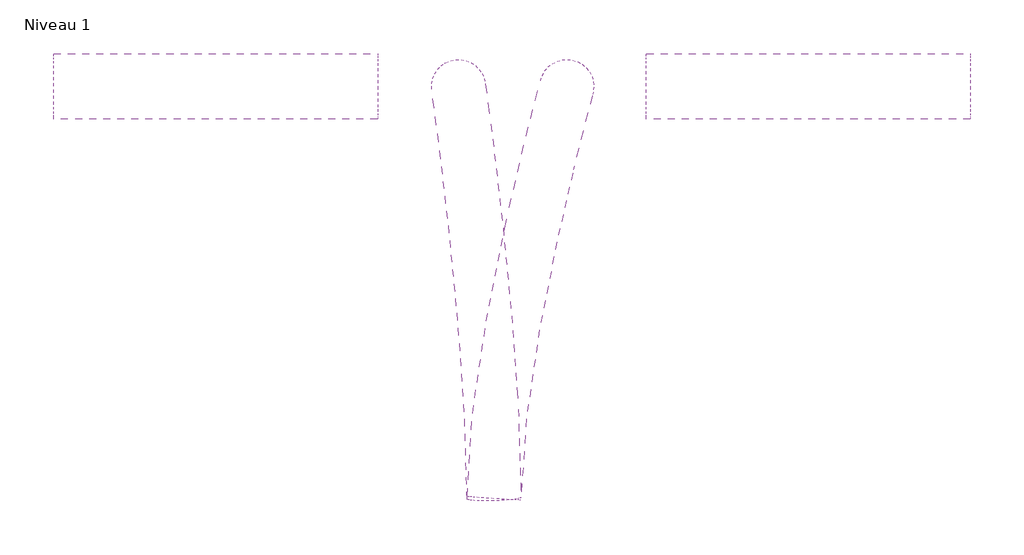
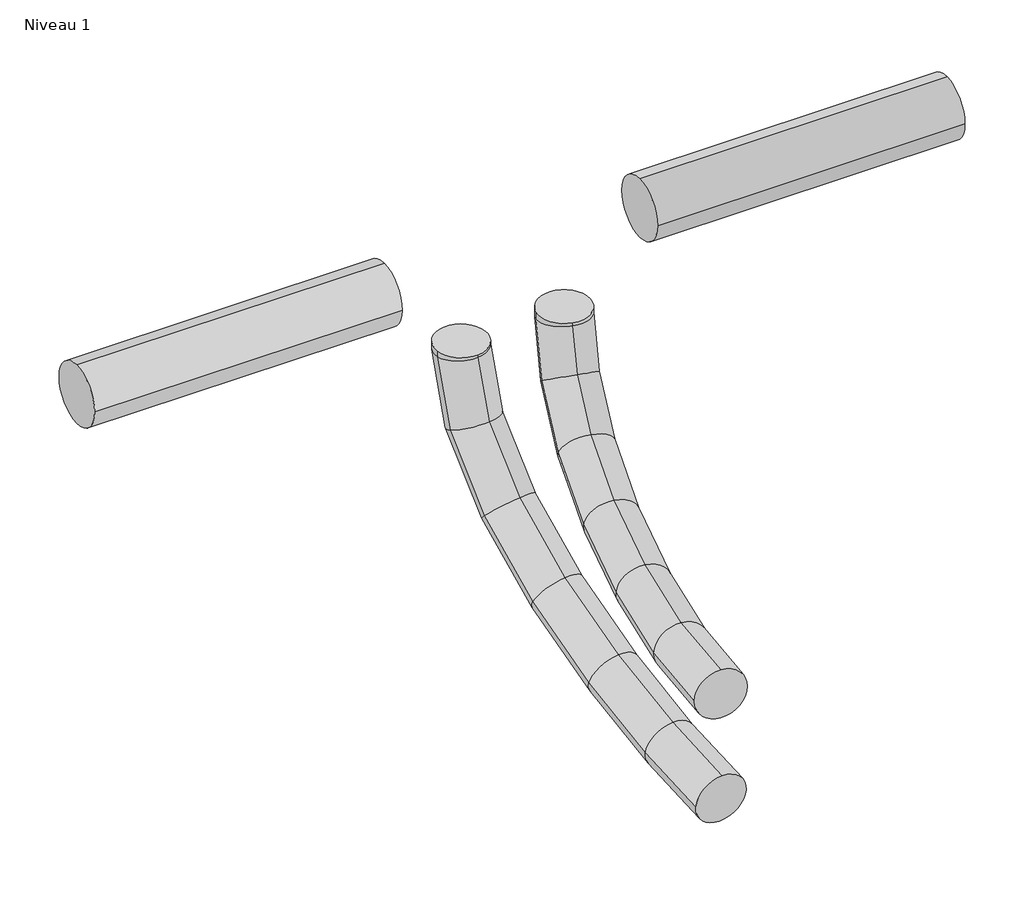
# One storey, incomplete: 4 pipe segments.
"""IFC4 building model written with IfcOpenShell, lengths in millimetres."""

from ifc_helpers import new_model, si_unit, point, frame, frame_2d, origin, place, context, project, spatial, circle_curve, ellipse_curve, trimmed, segment, composite_curve, outline, extrude, element, save
from ifc_brep_helpers import plane_surface, cylinder_surface, advanced_brep

model = new_model("IFC4")

# Units and contexts
model_context = context("Model", 3, world=origin())
ifc_project = project(units=[si_unit("LENGTHUNIT", "METRE", prefix="MILLI")], contexts=[model_context])

# Site, building, storey
site = spatial("IfcSite", under=ifc_project)
building = spatial("IfcBuilding", under=site)
storey = spatial("IfcBuildingStorey", under=building, Name="Niveau 1", Elevation=0.0)

# Pipe segments
placement = place(None, origin())
element("IfcPipeSegment", 1, ObjectType="Souple - Circulaire", at=placement, inside=storey, context=model_context, shape_type="AdvancedBrep", body=[
    advanced_brep(
    [(3432.3138955, -8730.6327238, 1379.680617), (3457.283736, -8731.9119597, 1354.6832047), (3482.2064381, -8733.9090322, 1379.680617), (3457.2365976, -8732.6297963, 1404.6780293), (3437.386469, -8653.386152, 1380.7945228), (3462.3315895, -8655.0418313, 1355.7916821), (3487.1448393, -8658.7056729, 1380.7650594), (3462.1997189, -8657.0499936, 1405.7679001), (3500.4514115, -8344.6009171, 1523.8970087), (3519.3136141, -8374.5043837, 1523.8970087), (3549.2170807, -8355.6421811, 1523.8970087), (3530.3548781, -8325.7387145, 1523.8970087), (3450.1356936, -8567.6164727, 1386.5233384), (3475.1149172, -8569.0427253, 1361.5358218), (3499.4230515, -8576.1047033, 1386.2822273), (3474.4438279, -8574.6784506, 1411.2697439), (3466.58074, -8484.3032958, 1400.3068839), (3492.0226016, -8483.3857518, 1375.707131), (3515.5136729, -8494.5870983, 1399.7687088), (3490.0718113, -8495.5046423, 1424.3684616), (3482.952736, -8412.9340647, 1425.6030629), (3509.6314267, -8406.6249027, 1402.9143203), (3531.6773447, -8424.1259993, 1424.7430086), (3504.998654, -8430.4351612, 1447.4317512), (3495.4728143, -8363.2241661, 1465.7471249), (3524.2853002, -8348.4429537, 1449.9001286), (3544.1847031, -8374.4666043, 1464.8462854), (3515.3722173, -8389.2478167, 1480.6932817), (3500.4514115, -8344.6009171, 1516.2245575), (3530.3548781, -8325.7387145, 1511.4388916), (3549.2170807, -8355.6421811, 1515.8689915), (3519.3136141, -8374.5043837, 1520.6546574)],
    [
        (0, 1, circle_curve(frame((3457.2601668, -8732.270878, 1379.680617), z_axis=(-0.06551938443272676, -0.9977475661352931, -0.014387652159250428), x_axis=(-0.9978508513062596, 0.06552616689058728, 0.0)), 25.0)),
        (1, 2, circle_curve(frame((3457.2601668, -8732.270878, 1379.680617), z_axis=(-0.06551938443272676, -0.9977475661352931, -0.014387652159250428), x_axis=(-0.9978508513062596, 0.06552616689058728, 0.0)), 25.0)),
        (2, 3, circle_curve(frame((3457.2601668, -8732.270878, 1379.680617), z_axis=(-0.06551938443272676, -0.9977475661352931, -0.014387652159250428), x_axis=(-0.9978508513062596, 0.06552616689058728, 0.0)), 25.0)),
        (3, 0, circle_curve(frame((3457.2601668, -8732.270878, 1379.680617), z_axis=(-0.06551938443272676, -0.9977475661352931, -0.014387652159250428), x_axis=(-0.9978508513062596, 0.06552616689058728, 0.0)), 25.0)),
        (0, 4),
        (4, 5, ellipse_curve(frame((3462.2656542, -8656.0459124, 1380.7797911), z_axis=(-0.10623891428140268, -0.9935275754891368, -0.04020260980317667), x_axis=(0.8390340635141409, -0.11126933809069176, 0.5325795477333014)), 25.0293131, 25.0)),
        (5, 1),
        (5, 6, ellipse_curve(frame((3462.2656542, -8656.0459124, 1380.7797911), z_axis=(-0.10623891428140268, -0.9935275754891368, -0.04020260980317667), x_axis=(0.8390340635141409, -0.11126933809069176, 0.5325795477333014)), 25.0293131, 25.0)),
        (6, 2),
        (6, 7, ellipse_curve(frame((3462.2656542, -8656.0459124, 1380.7797911), z_axis=(-0.10623891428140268, -0.9935275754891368, -0.04020260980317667), x_axis=(0.8390340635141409, -0.11126933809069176, 0.5325795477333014)), 25.0293131, 25.0)),
        (7, 3),
        (7, 4, ellipse_curve(frame((3462.2656542, -8656.0459124, 1380.7797911), z_axis=(-0.10623891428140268, -0.9935275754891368, -0.04020260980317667), x_axis=(0.8390340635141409, -0.11126933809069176, 0.5325795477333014)), 25.0293131, 25.0)),
        (8, 9, circle_curve(frame((3524.8342461, -8350.1215491, 1523.8970087), z_axis=(0.0, 0.0, 1.0), x_axis=(-0.9753133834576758, 0.22082527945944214, 0.0)), 25.0)),
        (9, 10, circle_curve(frame((3524.8342461, -8350.1215491, 1523.8970087), z_axis=(0.0, 0.0, 1.0), x_axis=(-0.9753133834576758, 0.22082527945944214, 0.0)), 25.0)),
        (10, 11, circle_curve(frame((3524.8342461, -8350.1215491, 1523.8970087), z_axis=(0.0, 0.0, 1.0), x_axis=(-0.9753133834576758, 0.22082527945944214, 0.0)), 25.0)),
        (11, 8, circle_curve(frame((3524.8342461, -8350.1215491, 1523.8970087), z_axis=(0.0, 0.0, 1.0), x_axis=(-0.9753133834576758, 0.22082527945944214, 0.0)), 25.0)),
        (4, 12),
        (12, 13, ellipse_curve(frame((3474.7793726, -8571.860588, 1386.4027828), z_axis=(-0.1691671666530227, -0.9790617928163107, -0.11322753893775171), x_axis=(0.41971783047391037, -0.17550919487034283, 0.8905242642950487)), 25.0351083, 25.0)),
        (13, 5),
        (13, 14, ellipse_curve(frame((3474.7793726, -8571.860588, 1386.4027828), z_axis=(-0.1691671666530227, -0.9790617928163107, -0.11322753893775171), x_axis=(0.41971783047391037, -0.17550919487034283, 0.8905242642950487)), 25.0351083, 25.0)),
        (14, 6),
        (14, 15, ellipse_curve(frame((3474.7793726, -8571.860588, 1386.4027828), z_axis=(-0.1691671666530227, -0.9790617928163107, -0.11322753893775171), x_axis=(0.41971783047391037, -0.17550919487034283, 0.8905242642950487)), 25.0351083, 25.0)),
        (15, 7),
        (15, 12, ellipse_curve(frame((3474.7793726, -8571.860588, 1386.4027828), z_axis=(-0.1691671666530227, -0.9790617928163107, -0.11322753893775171), x_axis=(0.41971783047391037, -0.17550919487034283, 0.8905242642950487)), 25.0351083, 25.0)),
        (12, 16),
        (16, 17, ellipse_curve(frame((3491.0472065, -8489.445197, 1400.0377963), z_axis=(-0.20200898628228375, -0.9484250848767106, -0.24429946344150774), x_axis=(0.11597570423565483, -0.27085210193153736, 0.9556091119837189)), 25.0952004, 25.0)),
        (17, 13),
        (17, 18, ellipse_curve(frame((3491.0472065, -8489.445197, 1400.0377963), z_axis=(-0.20200898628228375, -0.9484250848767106, -0.24429946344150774), x_axis=(0.11597570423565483, -0.27085210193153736, 0.9556091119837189)), 25.0952004, 25.0)),
        (18, 14),
        (18, 19, ellipse_curve(frame((3491.0472065, -8489.445197, 1400.0377963), z_axis=(-0.20200898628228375, -0.9484250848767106, -0.24429946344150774), x_axis=(0.11597570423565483, -0.27085210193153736, 0.9556091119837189)), 25.0952004, 25.0)),
        (19, 15),
        (19, 16, ellipse_curve(frame((3491.0472065, -8489.445197, 1400.0377963), z_axis=(-0.20200898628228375, -0.9484250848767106, -0.24429946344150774), x_axis=(0.11597570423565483, -0.27085210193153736, 0.9556091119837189)), 25.0952004, 25.0)),
        (16, 20),
        (20, 21, ellipse_curve(frame((3507.3150403, -8418.530032, 1425.1730357), z_axis=(-0.204629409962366, -0.8541217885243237, -0.47812422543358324), x_axis=(-0.05758809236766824, -0.477109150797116, 0.8769552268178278)), 25.3489607, 25.0)),
        (21, 17),
        (21, 22, ellipse_curve(frame((3507.3150403, -8418.530032, 1425.1730357), z_axis=(-0.204629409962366, -0.8541217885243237, -0.47812422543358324), x_axis=(-0.05758809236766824, -0.477109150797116, 0.8769552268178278)), 25.3489607, 25.0)),
        (22, 18),
        (22, 23, ellipse_curve(frame((3507.3150403, -8418.530032, 1425.1730357), z_axis=(-0.204629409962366, -0.8541217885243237, -0.47812422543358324), x_axis=(-0.05758809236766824, -0.477109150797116, 0.8769552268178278)), 25.3489607, 25.0)),
        (23, 19),
        (23, 20, ellipse_curve(frame((3507.3150403, -8418.530032, 1425.1730357), z_axis=(-0.204629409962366, -0.8541217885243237, -0.47812422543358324), x_axis=(-0.05758809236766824, -0.477109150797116, 0.8769552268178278)), 25.3489607, 25.0)),
        (20, 24),
        (24, 25, ellipse_curve(frame((3519.8287587, -8368.8453852, 1465.2967051), z_axis=(-0.1475953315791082, -0.5750295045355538, -0.8047090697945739), x_axis=(-0.18716397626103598, -0.7826804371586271, 0.593616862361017)), 25.9458581, 25.0)),
        (25, 21),
        (25, 26, ellipse_curve(frame((3519.8287587, -8368.8453852, 1465.2967051), z_axis=(-0.1475953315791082, -0.5750295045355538, -0.8047090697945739), x_axis=(-0.18716397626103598, -0.7826804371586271, 0.593616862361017)), 25.9458581, 25.0)),
        (26, 22),
        (26, 27, ellipse_curve(frame((3519.8287587, -8368.8453852, 1465.2967051), z_axis=(-0.1475953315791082, -0.5750295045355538, -0.8047090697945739), x_axis=(-0.18716397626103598, -0.7826804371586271, 0.593616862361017)), 25.9458581, 25.0)),
        (27, 23),
        (27, 24, ellipse_curve(frame((3519.8287587, -8368.8453852, 1465.2967051), z_axis=(-0.1475953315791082, -0.5750295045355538, -0.8047090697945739), x_axis=(-0.18716397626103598, -0.7826804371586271, 0.593616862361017)), 25.9458581, 25.0)),
        (24, 28),
        (28, 29, ellipse_curve(frame((3524.8342461, -8350.1215491, 1516.0467745), z_axis=(-0.0468469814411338, -0.17523872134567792, -0.9834107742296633), x_axis=(-0.25397863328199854, -0.9500482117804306, 0.18139252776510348)), 25.4217268, 25.0)),
        (29, 25),
        (29, 30, ellipse_curve(frame((3524.8342461, -8350.1215491, 1516.0467745), z_axis=(-0.0468469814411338, -0.17523872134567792, -0.9834107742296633), x_axis=(-0.25397863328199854, -0.9500482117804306, 0.18139252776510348)), 25.4217268, 25.0)),
        (30, 26),
        (30, 31, ellipse_curve(frame((3524.8342461, -8350.1215491, 1516.0467745), z_axis=(-0.0468469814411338, -0.17523872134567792, -0.9834107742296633), x_axis=(-0.25397863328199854, -0.9500482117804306, 0.18139252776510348)), 25.4217268, 25.0)),
        (31, 27),
        (31, 28, ellipse_curve(frame((3524.8342461, -8350.1215491, 1516.0467745), z_axis=(-0.0468469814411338, -0.17523872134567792, -0.9834107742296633), x_axis=(-0.25397863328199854, -0.9500482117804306, 0.18139252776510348)), 25.4217268, 25.0)),
        (28, 8),
        (11, 29),
        (10, 30),
        (9, 31),
    ],
    [
        plane_surface(frame((3457.2601668, -8732.6313438, 1404.6780181), z_axis=(-0.06551938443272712, -0.9977475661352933, -0.014387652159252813), x_axis=(0.9978512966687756, -0.06551257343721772, -0.0009446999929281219))),
        cylinder_surface(frame((3457.2601668, -8732.270878, 1379.680617), z_axis=(-0.06551938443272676, -0.9977475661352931, -0.014387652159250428), x_axis=(-0.9978508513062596, 0.06552616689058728, 0.0)), 25.0),
        plane_surface(frame((3524.8342461, -8375.1215491, 1523.8970087), z_axis=(0.0, 0.0, 1.0), x_axis=(1.0, 0.0, 0.0))),
        cylinder_surface(frame((3462.2656542, -8656.0459124, 1380.7797911), z_axis=(-0.14670960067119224, -0.9869804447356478, -0.0659234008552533), x_axis=(-0.9891586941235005, 0.14681368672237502, 0.003289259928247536)), 25.0),
        cylinder_surface(frame((3474.7793726, -8571.860588, 1386.4027828), z_axis=(-0.19115026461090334, -0.9683971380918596, -0.16021410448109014), x_axis=(-0.9813022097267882, 0.19228340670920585, 0.008547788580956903)), 25.0),
        cylinder_surface(frame((3491.0472065, -8489.445197, 1400.0377963), z_axis=(-0.21133503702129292, -0.9212571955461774, -0.3265312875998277), x_axis=(-0.9757359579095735, 0.2184167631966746, 0.015279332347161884)), 25.0),
        cylinder_surface(frame((3507.3150403, -8418.530032, 1425.1730357), z_axis=(-0.19228981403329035, -0.7634702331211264, -0.6165531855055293), x_axis=(-0.9733604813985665, 0.22833198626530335, 0.0208297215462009)), 25.0),
        cylinder_surface(frame((3519.8287587, -8368.8453852, 1465.2967051), z_axis=(-0.09213965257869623, -0.34466329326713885, -0.9341935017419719), x_axis=(-0.974658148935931, 0.2232762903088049, 0.013754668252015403)), 25.0),
        cylinder_surface(frame((3524.8342461, -8350.1215491, 1516.0467745), z_axis=(0.0, 0.0, -1.0000000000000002), x_axis=(-0.9753133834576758, 0.22082527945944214, 0.0)), 25.0),
    ],
    [
        (0, [[1, 2, 3, 4]]),
        (1, [[-1, 5, 6, 7]]),
        (1, [[-2, -7, 8, 9]]),
        (1, [[-3, -9, 10, 11]]),
        (1, [[-4, -11, 12, -5]]),
        (2, [[13, 14, 15, 16]]),
        (3, [[-6, 17, 18, 19]]),
        (3, [[-8, -19, 20, 21]]),
        (3, [[-10, -21, 22, 23]]),
        (3, [[-12, -23, 24, -17]]),
        (4, [[-18, 25, 26, 27]]),
        (4, [[-20, -27, 28, 29]]),
        (4, [[-22, -29, 30, 31]]),
        (4, [[-24, -31, 32, -25]]),
        (5, [[-26, 33, 34, 35]]),
        (5, [[-28, -35, 36, 37]]),
        (5, [[-30, -37, 38, 39]]),
        (5, [[-32, -39, 40, -33]]),
        (6, [[-34, 41, 42, 43]]),
        (6, [[-36, -43, 44, 45]]),
        (6, [[-38, -45, 46, 47]]),
        (6, [[-40, -47, 48, -41]]),
        (7, [[-42, 49, 50, 51]]),
        (7, [[-44, -51, 52, 53]]),
        (7, [[-46, -53, 54, 55]]),
        (7, [[-48, -55, 56, -49]]),
        (8, [[-50, 57, -16, 58]]),
        (8, [[-52, -58, -15, 59]]),
        (8, [[-54, -59, -14, 60]]),
        (8, [[-56, -60, -13, -57]]),
    ],
),
])
element("IfcPipeSegment", 2, ObjectType="Souple - Circulaire", at=placement, inside=storey, context=model_context, shape_type="AdvancedBrep", body=[
    advanced_brep(
    [(3432.2901507, -8732.9917439, 1271.6634193), (3457.2051603, -8729.7847959, 1246.7845572), (3482.2676479, -8731.4918199, 1271.6634193), (3457.3526384, -8734.6987679, 1296.5422815), (3429.8613293, -8652.063365, 1279.6629409), (3454.6990122, -8646.2798912, 1255.0387604), (3479.8089287, -8649.567245, 1279.7614118), (3454.9712458, -8655.3507188, 1304.3855923), (3399.3994254, -8352.4792718, 1523.7490798), (3426.6457226, -8375.0101236, 1523.7490798), (3449.1765745, -8347.7638264, 1523.7490798), (3421.9302772, -8325.2329745, 1523.7490798), (3423.8057457, -8567.1811179, 1302.7666868), (3448.3055569, -8556.6616339, 1279.4315813), (3473.6456607, -8563.1755662, 1303.2760037), (3449.1458494, -8573.6950502, 1326.6111093), (3415.9011134, -8486.1988912, 1339.9038642), (3439.9616072, -8471.1786408, 1318.6327394), (3465.6657859, -8481.4224869, 1340.766682), (3441.6052921, -8496.4427373, 1362.0378068), (3407.9731122, -8417.7034804, 1389.8770596), (3431.4543066, -8397.6782666, 1372.257479), (3457.7092799, -8412.6808034, 1390.9195541), (3434.2280856, -8432.7060173, 1408.5391347), (3401.8534061, -8370.2340925, 1451.5371273), (3424.6728179, -8345.0755583, 1440.5854414), (3451.6101344, -8365.3709007, 1452.3724595), (3428.7907226, -8390.5294349, 1463.3241455), (3399.3994254, -8352.4792718, 1517.5744514), (3421.9302772, -8325.2329745, 1514.3879966), (3449.1765745, -8347.7638264, 1517.8602552), (3426.6457226, -8375.0101236, 1521.04671)],
    [
        (0, 1, circle_curve(frame((3457.2788993, -8732.2417819, 1271.6634193), z_axis=(0.029853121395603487, -0.9947066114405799, -0.09832369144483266), x_axis=(-0.9995499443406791, -0.029998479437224, 0.0)), 25.0)),
        (1, 2, circle_curve(frame((3457.2788993, -8732.2417819, 1271.6634193), z_axis=(0.029853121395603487, -0.9947066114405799, -0.09832369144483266), x_axis=(-0.9995499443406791, -0.029998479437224, 0.0)), 25.0)),
        (2, 3, circle_curve(frame((3457.2788993, -8732.2417819, 1271.6634193), z_axis=(0.029853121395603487, -0.9947066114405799, -0.09832369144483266), x_axis=(-0.9995499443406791, -0.029998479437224, 0.0)), 25.0)),
        (3, 0, circle_curve(frame((3457.2788993, -8732.2417819, 1271.6634193), z_axis=(0.029853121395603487, -0.9947066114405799, -0.09832369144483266), x_axis=(-0.9995499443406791, -0.029998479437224, 0.0)), 25.0)),
        (0, 4),
        (4, 5, ellipse_curve(frame((3454.835129, -8650.815305, 1279.7121763), z_axis=(0.04944524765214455, -0.9822703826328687, -0.18083158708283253), x_axis=(-0.22667770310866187, -0.18736489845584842, 0.9557780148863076)), 25.0921643, 25.0)),
        (5, 1),
        (5, 6, ellipse_curve(frame((3454.835129, -8650.815305, 1279.7121763), z_axis=(0.04944524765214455, -0.9822703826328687, -0.18083158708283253), x_axis=(-0.22667770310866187, -0.18736489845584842, 0.9557780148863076)), 25.0921643, 25.0)),
        (6, 2),
        (6, 7, ellipse_curve(frame((3454.835129, -8650.815305, 1279.7121763), z_axis=(0.04944524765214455, -0.9822703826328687, -0.18083158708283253), x_axis=(-0.22667770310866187, -0.18736489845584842, 0.9557780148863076)), 25.0921643, 25.0)),
        (7, 3),
        (7, 4, ellipse_curve(frame((3454.835129, -8650.815305, 1279.7121763), z_axis=(0.04944524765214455, -0.9822703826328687, -0.18083158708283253), x_axis=(-0.22667770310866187, -0.18736489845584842, 0.9557780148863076)), 25.0921643, 25.0)),
        (8, 9, circle_curve(frame((3424.2879999, -8350.1215491, 1523.7490798), z_axis=(0.0, 0.0, 1.0), x_axis=(-0.995542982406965, -0.09430890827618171, 0.0)), 25.0)),
        (9, 10, circle_curve(frame((3424.2879999, -8350.1215491, 1523.7490798), z_axis=(0.0, 0.0, 1.0), x_axis=(-0.995542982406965, -0.09430890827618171, 0.0)), 25.0)),
        (10, 11, circle_curve(frame((3424.2879999, -8350.1215491, 1523.7490798), z_axis=(0.0, 0.0, 1.0), x_axis=(-0.995542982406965, -0.09430890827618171, 0.0)), 25.0)),
        (11, 8, circle_curve(frame((3424.2879999, -8350.1215491, 1523.7490798), z_axis=(0.0, 0.0, 1.0), x_axis=(-0.995542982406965, -0.09430890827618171, 0.0)), 25.0)),
        (4, 12),
        (12, 13, ellipse_curve(frame((3448.7257032, -8565.1783421, 1303.0213453), z_axis=(0.07879360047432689, -0.9372036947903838, -0.3397658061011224), x_axis=(-0.11962394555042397, -0.3472516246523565, 0.9301109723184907)), 25.0852158, 25.0)),
        (13, 5),
        (13, 14, ellipse_curve(frame((3448.7257032, -8565.1783421, 1303.0213453), z_axis=(0.07879360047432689, -0.9372036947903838, -0.3397658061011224), x_axis=(-0.11962394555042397, -0.3472516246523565, 0.9301109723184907)), 25.0852158, 25.0)),
        (14, 6),
        (14, 15, ellipse_curve(frame((3448.7257032, -8565.1783421, 1303.0213453), z_axis=(0.07879360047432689, -0.9372036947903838, -0.3397658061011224), x_axis=(-0.11962394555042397, -0.3472516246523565, 0.9301109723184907)), 25.0852158, 25.0)),
        (15, 7),
        (15, 12, ellipse_curve(frame((3448.7257032, -8565.1783421, 1303.0213453), z_axis=(0.07879360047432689, -0.9372036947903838, -0.3397658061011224), x_axis=(-0.11962394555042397, -0.3472516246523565, 0.9301109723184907)), 25.0852158, 25.0)),
        (12, 16),
        (16, 17, ellipse_curve(frame((3440.7834496, -8483.8106891, 1340.3352731), z_axis=(0.09119152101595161, -0.8591534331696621, -0.5035270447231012), x_axis=(-0.023692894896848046, -0.5073625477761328, 0.8614069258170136)), 25.1249739, 25.0)),
        (17, 13),
        (17, 18, ellipse_curve(frame((3440.7834496, -8483.8106891, 1340.3352731), z_axis=(0.09119152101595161, -0.8591534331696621, -0.5035270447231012), x_axis=(-0.023692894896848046, -0.5073625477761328, 0.8614069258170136)), 25.1249739, 25.0)),
        (18, 14),
        (18, 19, ellipse_curve(frame((3440.7834496, -8483.8106891, 1340.3352731), z_axis=(0.09119152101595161, -0.8591534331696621, -0.5035270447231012), x_axis=(-0.023692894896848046, -0.5073625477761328, 0.8614069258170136)), 25.1249739, 25.0)),
        (19, 15),
        (19, 16, ellipse_curve(frame((3440.7834496, -8483.8106891, 1340.3352731), z_axis=(0.09119152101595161, -0.8591534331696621, -0.5035270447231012), x_axis=(-0.023692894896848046, -0.5073625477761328, 0.8614069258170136)), 25.1249739, 25.0)),
        (16, 20),
        (20, 21, ellipse_curve(frame((3432.8411961, -8415.1921419, 1390.3983068), z_axis=(0.08661991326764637, -0.7134080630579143, -0.695374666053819), x_axis=(0.051973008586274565, -0.6938116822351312, 0.7182786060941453)), 25.2536936, 25.0)),
        (21, 17),
        (21, 22, ellipse_curve(frame((3432.8411961, -8415.1921419, 1390.3983068), z_axis=(0.08661991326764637, -0.7134080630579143, -0.695374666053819), x_axis=(0.051973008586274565, -0.6938116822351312, 0.7182786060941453)), 25.2536936, 25.0)),
        (22, 18),
        (22, 23, ellipse_curve(frame((3432.8411961, -8415.1921419, 1390.3983068), z_axis=(0.08661991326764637, -0.7134080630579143, -0.695374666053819), x_axis=(0.051973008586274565, -0.6938116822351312, 0.7182786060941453)), 25.2536936, 25.0)),
        (23, 19),
        (23, 20, ellipse_curve(frame((3432.8411961, -8415.1921419, 1390.3983068), z_axis=(0.08661991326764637, -0.7134080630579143, -0.695374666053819), x_axis=(0.051973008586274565, -0.6938116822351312, 0.7182786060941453)), 25.2536936, 25.0)),
        (20, 24),
        (24, 25, ellipse_curve(frame((3426.7317703, -8367.8024966, 1451.9547934), z_axis=(0.05826521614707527, -0.4424117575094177, -0.8949173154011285), x_axis=(0.10837840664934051, -0.8883387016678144, 0.4462157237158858)), 25.4957895, 25.0)),
        (25, 21),
        (25, 26, ellipse_curve(frame((3426.7317703, -8367.8024966, 1451.9547934), z_axis=(0.05826521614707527, -0.4424117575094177, -0.8949173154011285), x_axis=(0.10837840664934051, -0.8883387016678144, 0.4462157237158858)), 25.4957895, 25.0)),
        (26, 22),
        (26, 27, ellipse_curve(frame((3426.7317703, -8367.8024966, 1451.9547934), z_axis=(0.05826521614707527, -0.4424117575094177, -0.8949173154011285), x_axis=(0.10837840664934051, -0.8883387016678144, 0.4462157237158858)), 25.4957895, 25.0)),
        (27, 23),
        (27, 24, ellipse_curve(frame((3426.7317703, -8367.8024966, 1451.9547934), z_axis=(0.05826521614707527, -0.4424117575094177, -0.8949173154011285), x_axis=(0.10837840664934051, -0.8883387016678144, 0.4462157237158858)), 25.4957895, 25.0)),
        (24, 28),
        (28, 29, ellipse_curve(frame((3424.2879999, -8350.1215491, 1517.7173533), z_axis=(0.018090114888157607, -0.13088397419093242, -0.9912326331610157), x_axis=(0.13571296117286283, -0.981898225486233, 0.1321282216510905)), 25.2211228, 25.0)),
        (29, 25),
        (29, 30, ellipse_curve(frame((3424.2879999, -8350.1215491, 1517.7173533), z_axis=(0.018090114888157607, -0.13088397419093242, -0.9912326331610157), x_axis=(0.13571296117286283, -0.981898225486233, 0.1321282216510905)), 25.2211228, 25.0)),
        (30, 26),
        (30, 31, ellipse_curve(frame((3424.2879999, -8350.1215491, 1517.7173533), z_axis=(0.018090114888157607, -0.13088397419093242, -0.9912326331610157), x_axis=(0.13571296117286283, -0.981898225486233, 0.1321282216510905)), 25.2211228, 25.0)),
        (31, 27),
        (31, 28, ellipse_curve(frame((3424.2879999, -8350.1215491, 1517.7173533), z_axis=(0.018090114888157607, -0.13088397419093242, -0.9912326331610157), x_axis=(0.13571296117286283, -0.981898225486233, 0.1321282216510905)), 25.2211228, 25.0)),
        (28, 8),
        (11, 29),
        (10, 30),
        (9, 31),
    ],
    [
        plane_surface(frame((3457.2788993, -8734.7009703, 1296.5421732), z_axis=(0.029853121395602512, -0.9947066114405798, -0.09832369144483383), x_axis=(0.9995542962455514, 0.029708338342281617, 0.0029365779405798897))),
        cylinder_surface(frame((3457.2788993, -8732.2417819, 1271.6634193), z_axis=(0.029853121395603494, -0.9947066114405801, -0.09832369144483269), x_axis=(-0.9995499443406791, -0.029998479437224, 0.0)), 25.0),
        plane_surface(frame((3424.2879999, -8375.1215491, 1523.7490798), z_axis=(0.0, 0.0, 1.0), x_axis=(1.0, 0.0, 0.0))),
        cylinder_surface(frame((3454.835129, -8650.815305, 1279.7121763), z_axis=(0.06867414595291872, -0.9626183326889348, -0.2620110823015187), x_axis=(-0.997576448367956, -0.06920359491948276, -0.0072174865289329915)), 25.0),
        cylinder_surface(frame((3448.7257032, -8565.1783421, 1303.0213453), z_axis=(0.0883777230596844, -0.9054215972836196, -0.4152121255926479), x_axis=(-0.9957968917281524, -0.09037037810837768, -0.014891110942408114)), 25.0),
        cylinder_surface(frame((3440.7834496, -8483.8106891, 1340.3352731), z_axis=(0.09309812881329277, -0.8043382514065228, -0.5868327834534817), x_axis=(-0.9947631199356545, -0.1001099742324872, -0.02059922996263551)), 25.0),
        cylinder_surface(frame((3432.8411961, -8415.1921419, 1390.3983068), z_axis=(0.07840136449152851, -0.6081443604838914, -0.789945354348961), x_axis=(-0.9946898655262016, -0.10071330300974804, -0.02118730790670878)), 25.0),
        cylinder_surface(frame((3426.7317703, -8367.8024966, 1451.9547934), z_axis=(0.03586302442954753, -0.2594729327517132, -0.9650842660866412), x_axis=(-0.9953379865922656, -0.0957920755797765, -0.011232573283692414)), 25.0),
        cylinder_surface(frame((3424.2879999, -8350.1215491, 1517.7173533), z_axis=(0.0, 0.0, -1.0), x_axis=(-0.995542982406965, -0.09430890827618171, 0.0)), 25.0),
    ],
    [
        (0, [[1, 2, 3, 4]]),
        (1, [[-1, 5, 6, 7]]),
        (1, [[-2, -7, 8, 9]]),
        (1, [[-3, -9, 10, 11]]),
        (1, [[-4, -11, 12, -5]]),
        (2, [[13, 14, 15, 16]]),
        (3, [[-6, 17, 18, 19]]),
        (3, [[-8, -19, 20, 21]]),
        (3, [[-10, -21, 22, 23]]),
        (3, [[-12, -23, 24, -17]]),
        (4, [[-18, 25, 26, 27]]),
        (4, [[-20, -27, 28, 29]]),
        (4, [[-22, -29, 30, 31]]),
        (4, [[-24, -31, 32, -25]]),
        (5, [[-26, 33, 34, 35]]),
        (5, [[-28, -35, 36, 37]]),
        (5, [[-30, -37, 38, 39]]),
        (5, [[-32, -39, 40, -33]]),
        (6, [[-34, 41, 42, 43]]),
        (6, [[-36, -43, 44, 45]]),
        (6, [[-38, -45, 46, 47]]),
        (6, [[-40, -47, 48, -41]]),
        (7, [[-42, 49, 50, 51]]),
        (7, [[-44, -51, 52, 53]]),
        (7, [[-46, -53, 54, 55]]),
        (7, [[-48, -55, 56, -49]]),
        (8, [[-50, 57, -16, 58]]),
        (8, [[-52, -58, -15, 59]]),
        (8, [[-54, -59, -14, 60]]),
        (8, [[-56, -60, -13, -57]]),
    ],
),
])
element("IfcPipeSegment", 3, ObjectType="Standard", at=placement, inside=storey, context=model_context, shape_type="SweptSolid", body=[
    extrude(outline(composite_curve([segment(trimmed(circle_curve(frame_2d((-8350.1215491, 1600.0)), 30.1625), [point((-8380.2840491, 1600.0))], [point((-8350.1215491, 1630.1625))], False, "CARTESIAN"), True, "CONTINUOUS"), segment(trimmed(circle_curve(frame_2d((-8350.1215491, 1600.0)), 30.1625), [point((-8350.1215491, 1630.1625))], [point((-8319.9590491, 1600.0))], False, "CARTESIAN"), True, "CONTINUOUS"), segment(trimmed(circle_curve(frame_2d((-8350.1215491, 1600.0)), 30.1625), [point((-8319.9590491, 1600.0))], [point((-8350.1215491, 1569.8375))], False, "CARTESIAN"), True, "CONTINUOUS"), segment(trimmed(circle_curve(frame_2d((-8350.1215491, 1600.0)), 30.1625), [point((-8350.1215491, 1569.8375))], [point((-8380.2840491, 1600.0))], False, "CARTESIAN"), True, "CONTINUOUS")], self_intersect=False)), frame((3598.6508146, 0.0, 0.0), z_axis=(1.0, 0.0, 0.0), x_axis=(0.0, 1.0, 0.0)), (0.0, 0.0, 1.0), 300.0),
])
element("IfcPipeSegment", 4, ObjectType="Standard", at=placement, inside=storey, context=model_context, shape_type="SweptSolid", body=[
    extrude(outline(composite_curve([segment(trimmed(circle_curve(frame_2d((-8350.1215491, 1600.0)), 30.1625), [point((-8319.9590491, 1600.0))], [point((-8350.1215491, 1569.8375))], False, "CARTESIAN"), True, "CONTINUOUS"), segment(trimmed(circle_curve(frame_2d((-8350.1215491, 1600.0)), 30.1625), [point((-8350.1215491, 1569.8375))], [point((-8380.2840491, 1600.0))], False, "CARTESIAN"), True, "CONTINUOUS"), segment(trimmed(circle_curve(frame_2d((-8350.1215491, 1600.0)), 30.1625), [point((-8380.2840491, 1600.0))], [point((-8350.1215491, 1630.1625))], False, "CARTESIAN"), True, "CONTINUOUS"), segment(trimmed(circle_curve(frame_2d((-8350.1215491, 1600.0)), 30.1625), [point((-8350.1215491, 1630.1625))], [point((-8319.9590491, 1600.0))], False, "CARTESIAN"), True, "CONTINUOUS")], self_intersect=False)), frame((3049.2879999, 0.0, 0.0), z_axis=(1.0, 0.0, 0.0), x_axis=(0.0, 1.0, 0.0)), (0.0, 0.0, 1.0), 300.0),
])

save(model, "model.ifc")
